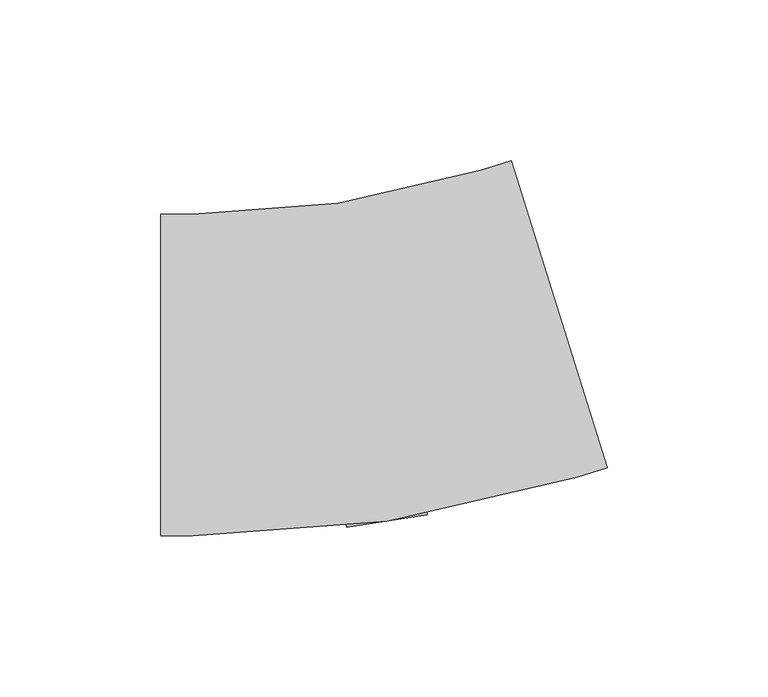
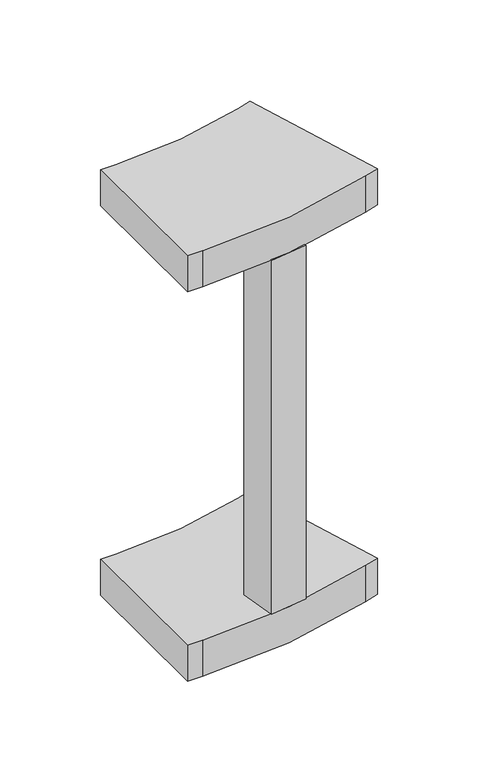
"""IFC4 building model written with IfcOpenShell, lengths in millimetres: cable carrier fitting geometry, ADSK_Поворот вертикальный внутренний_Лестничный лоток : Радиус 300 мм."""

from ifc_helpers import new_model, si_unit, point, frame, frame_2d, origin, place, context, project, spatial, polyline, circle_curve, trimmed, segment, composite_curve, outline, extrude, source, transform, mapped, element, save


def cable_carrier_fitting_0e7ed510(model_context):
    return source(origin(), model_context, "Body", "SweptSolid", [
        extrude(outline(polyline([(15.6551396, -18.3925849), (19.4885276, -43.5016497), (-5.6205372, -47.3350377), (-9.4539253, -22.2259729), (15.6551396, -18.3925849)])), frame((0.0, 0.0, -124.6), z_axis=(0.0, 0.0, 1.0), x_axis=(1.0, 0.0, 0.0)), (0.0, 0.0, 1.0), 249.2),
        extrude(outline(composite_curve([segment(polyline([(-63.4343199, -50.0), (-63.4343199, 50.0), (-53.4343199, 50.0)]), True, "CONTINUOUS"), segment(trimmed(circle_curve(frame_2d((-53.4343199, 350.0)), 300.0), [point((-53.4343199, 50.0))], [point((36.0809519, 63.6662505))], True, "CARTESIAN"), True, "CONTINUOUS"), segment(polyline([(36.0809519, 63.6662505), (45.6254102, 66.6500929), (75.4638342, -28.7944903), (65.9193759, -31.7783327)]), True, "CONTINUOUS"), segment(trimmed(circle_curve(frame_2d((-53.4343199, 350.0)), 400.0), [point((65.9193759, -31.7783327))], [point((-53.4343199, -50.0))], False, "CARTESIAN"), True, "CONTINUOUS"), segment(polyline([(-53.4343199, -50.0), (-63.4343199, -50.0)]), True, "CONTINUOUS")], self_intersect=False)), frame((0.0, 0.0, 124.6), z_axis=(0.0, 0.0, 1.0), x_axis=(1.0, 0.0, 0.0)), (0.0, 0.0, 1.0), 25.4),
        extrude(outline(composite_curve([segment(polyline([(-63.4343199, -50.0), (-63.4343199, 50.0), (-53.4343199, 50.0)]), True, "CONTINUOUS"), segment(trimmed(circle_curve(frame_2d((-53.4343199, 350.0)), 300.0), [point((-53.4343199, 50.0))], [point((36.0809519, 63.6662505))], True, "CARTESIAN"), True, "CONTINUOUS"), segment(polyline([(36.0809519, 63.6662505), (45.6254102, 66.6500929), (75.4638342, -28.7944903), (65.9193759, -31.7783327)]), True, "CONTINUOUS"), segment(trimmed(circle_curve(frame_2d((-53.4343199, 350.0)), 400.0), [point((65.9193759, -31.7783327))], [point((-53.4343199, -50.0))], False, "CARTESIAN"), True, "CONTINUOUS"), segment(polyline([(-53.4343199, -50.0), (-63.4343199, -50.0)]), True, "CONTINUOUS")], self_intersect=False)), frame((0.0, 0.0, -150.0), z_axis=(0.0, 0.0, 1.0), x_axis=(1.0, 0.0, 0.0)), (0.0, 0.0, 1.0), 25.4),
    ])


if __name__ == "__main__":
    model = new_model("IFC4")
    model_context = context("Model", 3, world=origin())
    ifc_project = project(units=[si_unit("LENGTHUNIT", "METRE", prefix="MILLI")], contexts=[model_context])
    site = spatial("IfcSite", under=ifc_project)
    building = spatial("IfcBuilding", under=site)
    placement = place(None, origin())
    cable_carrier_fitting_shape = cable_carrier_fitting_0e7ed510(model_context)
    element("IfcCableCarrierFitting", 1, ObjectType="ADSK_Поворот вертикальный внутренний_Лестничный лоток : Радиус 300 мм", at=placement, inside=building, context=model_context, shape_type="MappedRepresentation", body=[
        mapped(cable_carrier_fitting_shape, transform((0.0, 0.0, 0.0), x_axis=(1.0, 0.0, 0.0), y_axis=(0.0, 1.0, 0.0), z_axis=(0.0, 0.0, 1.0))),
    ])
    save(model, "model.ifc")
